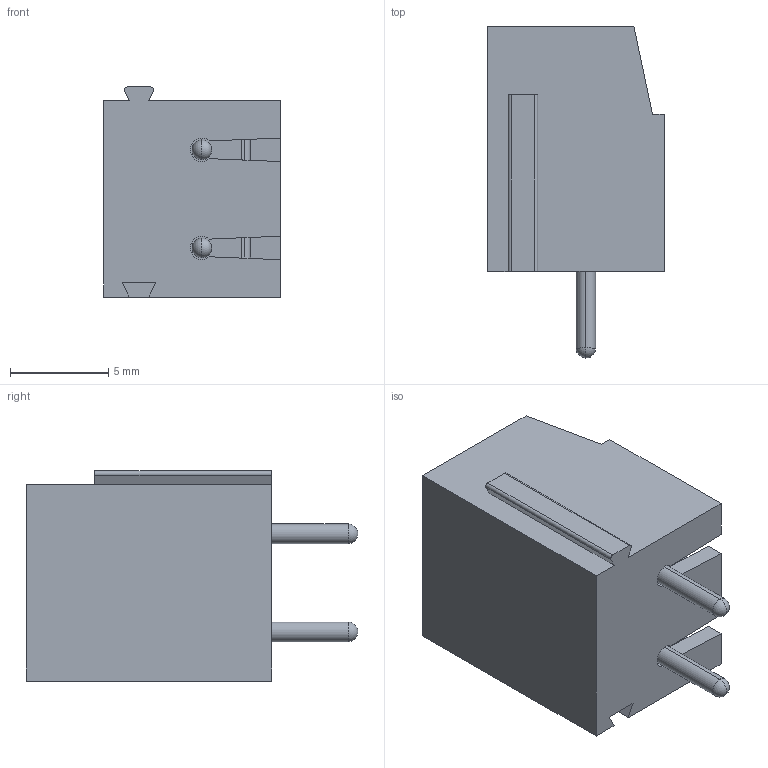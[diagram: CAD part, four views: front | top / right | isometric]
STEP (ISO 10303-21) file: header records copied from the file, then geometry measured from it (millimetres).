
FILE_DESCRIPTION (( 'STEP AP203' ), '1' );
FILE_NAME ('BR002.STEP', '2020-02-20T03:32:55', ( '' ), ( '' ), 'SwSTEP 2.0', 'SolidWorks 2019', '' );
FILE_SCHEMA (( 'CONFIG_CONTROL_DESIGN' ));
Length unit declared in the file: millimetre
Products named in the file (1): BR002
Bounding box: 9 x 16.9 x 10.7 mm (x, y, z)
Volume: 843.7 mm3; surface area: 1147.3 mm2
Topology: 1 solids, 1 shells, 156 faces, 410 edges, 264 vertices
Faces by surface type: plane 94, cylinder 46, cone 8, torus 4, sphere 4
Entity records: 4821 total; most frequent: CARTESIAN_POINT 859, DIRECTION 814, ORIENTED_EDGE 804, EDGE_CURVE 402, VECTOR 288, LINE 288, AXIS2_PLACEMENT_3D 263, VERTEX_POINT 260
